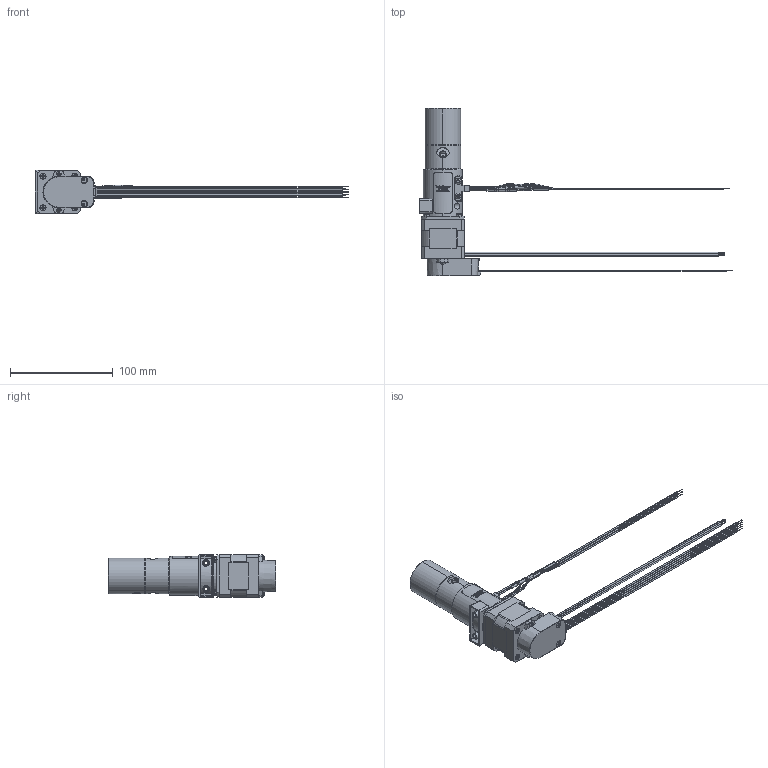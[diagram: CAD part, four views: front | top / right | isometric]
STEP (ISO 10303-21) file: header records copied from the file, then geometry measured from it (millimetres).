
FILE_DESCRIPTION (( 'STEP AP214' ), '1' );
FILE_NAME ('Lee-LPV_Series_HP_Dual_Seal_500µL-CAD_Model A2.step', '2021-03-30T13:42:03', ( '' ), ( '' ), 'SwSTEP 2.0', 'SolidWorks 2021', '' );
FILE_SCHEMA (( 'AUTOMOTIVE_DESIGN' ));
Length unit declared in the file: inch
Products named in the file (1): Lee-LPV_Series_HP_Dual_Seal_500µL-CAD_Model A2
Bounding box: 305.44 x 163.63 x 42.42 mm (x, y, z)
Volume: 208050.6 mm3; surface area: 51153.8 mm2
Topology: 4 solids, 4 shells, 1210 faces, 3093 edges, 2012 vertices
Faces by surface type: plane 487, bspline 342, cylinder 305, cone 35, torus 29, sphere 12
Entity records: 74819 total; most frequent: CARTESIAN_POINT 34291, ORIENTED_EDGE 6182, DIRECTION 4484, EDGE_CURVE 3091, VERTEX_POINT 2012, AXIS2_PLACEMENT_3D 1639, EDGE_LOOP 1347, FACE_OUTER_BOUND 1210
